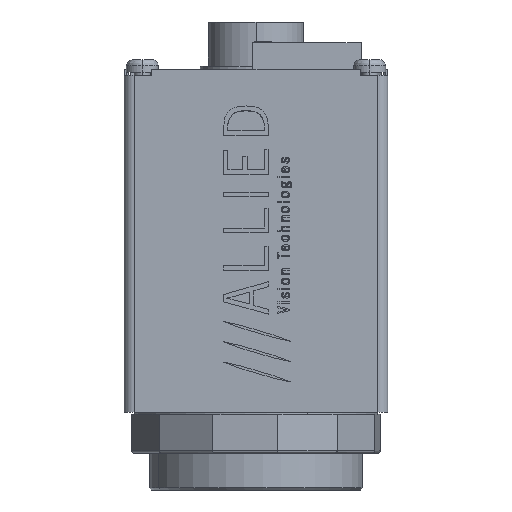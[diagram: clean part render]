
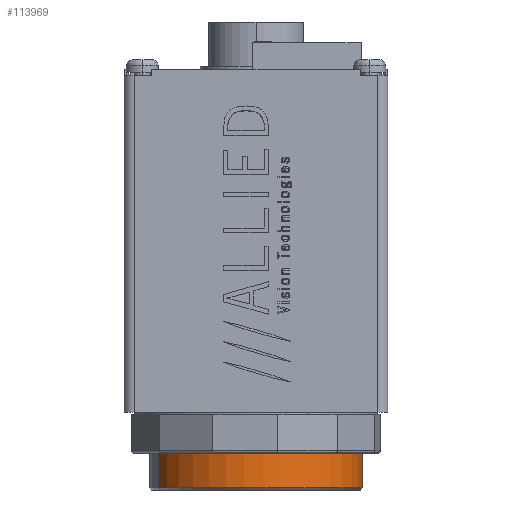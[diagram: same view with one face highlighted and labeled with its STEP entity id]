
A CAD part, left-side view. The second image highlights one B-rep face of the part: STEP entity #113969.
In plain terms, the highlighted cylindrical face has radius 13.335 mm (diameter 26.67 mm), a partial arc.
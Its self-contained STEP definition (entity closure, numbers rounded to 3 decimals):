
#4739 = ORIENTED_EDGE ( 'NONE', *, *, #125528, .F. ) ;
#8620 = CARTESIAN_POINT ( 'NONE',  ( 0., 0., 7.214 ) ) ;
#14036 = LINE ( 'NONE', #59328, #122369 ) ;
#14672 = FACE_OUTER_BOUND ( 'NONE', #94117, .T. ) ;
#16245 = CARTESIAN_POINT ( 'NONE',  ( -13.335, 0., 13.386 ) ) ;
#22572 = VERTEX_POINT ( 'NONE', #156972 ) ;
#23750 = VERTEX_POINT ( 'NONE', #16245 ) ;
#28278 = DIRECTION ( 'NONE',  ( 1., 0., 0. ) ) ;
#28306 = DIRECTION ( 'NONE',  ( 0., 0., -1. ) ) ;
#28700 = CARTESIAN_POINT ( 'NONE',  ( 0., 0., 13.386 ) ) ;
#39042 = CYLINDRICAL_SURFACE ( 'NONE', #76019, 13.335 ) ;
#43623 = ORIENTED_EDGE ( 'NONE', *, *, #118568, .T. ) ;
#48737 = CARTESIAN_POINT ( 'NONE',  ( 13.335, 0., 7.214 ) ) ;
#49348 = DIRECTION ( 'NONE',  ( 0., 0., 1. ) ) ;
#54647 = ORIENTED_EDGE ( 'NONE', *, *, #145453, .T. ) ;
#59290 = CARTESIAN_POINT ( 'NONE',  ( 13.335, 0., 13.386 ) ) ;
#59328 = CARTESIAN_POINT ( 'NONE',  ( -13.335, 0., 7.214 ) ) ;
#62094 = EDGE_CURVE ( 'NONE', #111865, #23750, #113348, .T. ) ;
#70797 = DIRECTION ( 'NONE',  ( 0., 0., 1. ) ) ;
#76019 = AXIS2_PLACEMENT_3D ( 'NONE', #8620, #135139, #107604 ) ;
#79954 = VECTOR ( 'NONE', #49348, 1000. ) ;
#84620 = VERTEX_POINT ( 'NONE', #95927 ) ;
#94117 = EDGE_LOOP ( 'NONE', ( #4739, #43623, #54647, #125652 ) ) ;
#95927 = CARTESIAN_POINT ( 'NONE',  ( 13.335, 0., 7.214 ) ) ;
#107604 = DIRECTION ( 'NONE',  ( 1., 0., 0. ) ) ;
#111865 = VERTEX_POINT ( 'NONE', #59290 ) ;
#113348 = CIRCLE ( 'NONE', #124770, 13.335 ) ;
#113969 = ADVANCED_FACE ( 'NONE', ( #14672 ), #39042, .T. ) ;
#117363 = LINE ( 'NONE', #48737, #79954 ) ;
#118568 = EDGE_CURVE ( 'NONE', #22572, #84620, #123951, .T. ) ;
#122369 = VECTOR ( 'NONE', #157055, 1000. ) ;
#123951 = CIRCLE ( 'NONE', #168643, 13.335 ) ;
#124770 = AXIS2_PLACEMENT_3D ( 'NONE', #28700, #28306, #28278 ) ;
#125528 = EDGE_CURVE ( 'NONE', #22572, #23750, #14036, .T. ) ;
#125652 = ORIENTED_EDGE ( 'NONE', *, *, #62094, .T. ) ;
#135139 = DIRECTION ( 'NONE',  ( 0., 0., 1. ) ) ;
#145453 = EDGE_CURVE ( 'NONE', #84620, #111865, #117363, .T. ) ;
#154481 = CARTESIAN_POINT ( 'NONE',  ( 0., 0., 7.214 ) ) ;
#156972 = CARTESIAN_POINT ( 'NONE',  ( -13.335, 0., 7.214 ) ) ;
#157055 = DIRECTION ( 'NONE',  ( 0., 0., 1. ) ) ;
#167854 = DIRECTION ( 'NONE',  ( 1., 0., 0. ) ) ;
#168643 = AXIS2_PLACEMENT_3D ( 'NONE', #154481, #70797, #167854 ) ;
